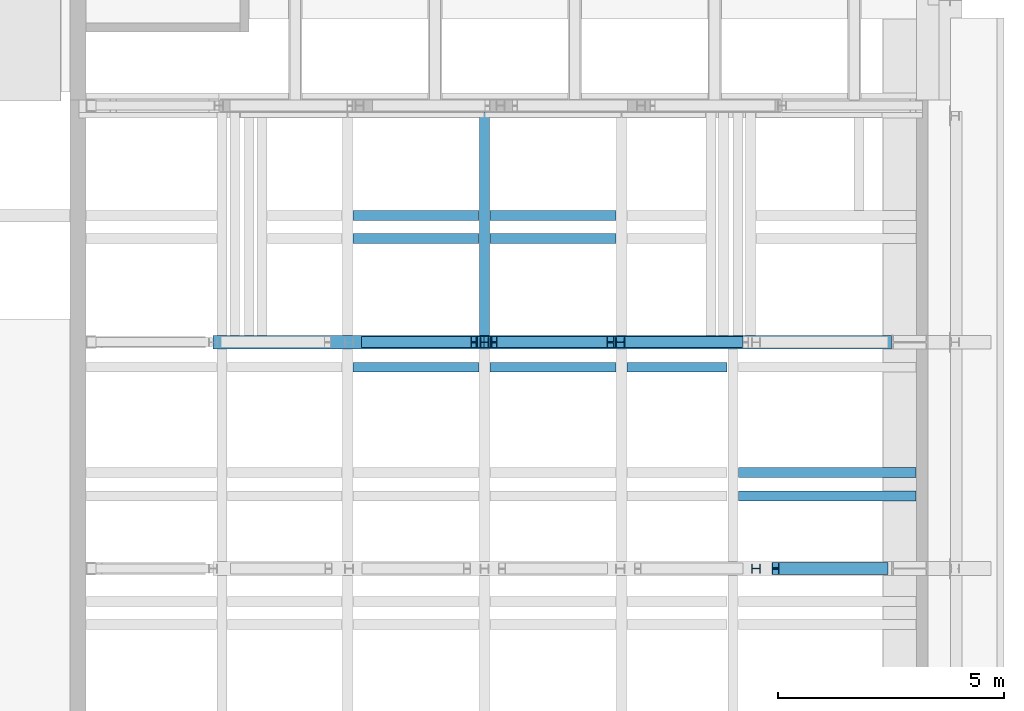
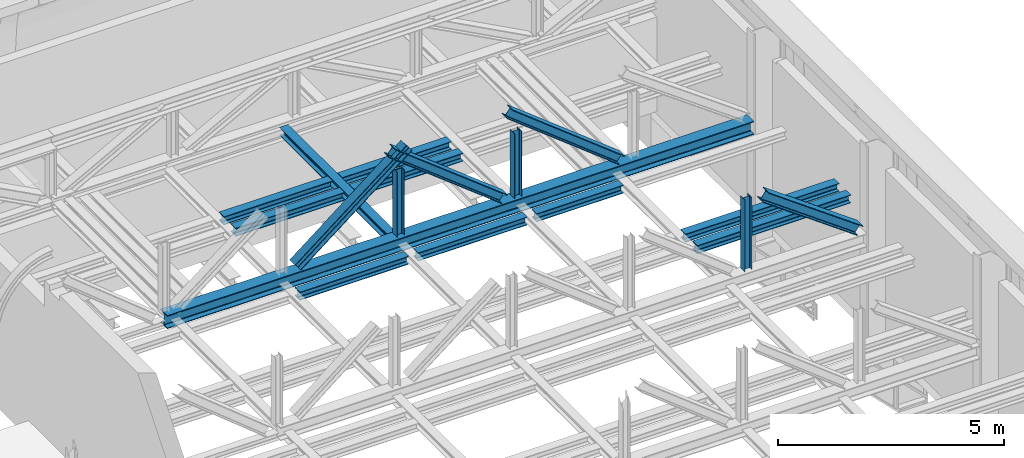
# One storey, part 21 of 29: 18 beams.
"""IFC2X3 building model written with IfcOpenShell, lengths in millimetres."""

import ifcopenshell
import ifcopenshell.guid

model = None  # the IFC model being written
_history = None  # IfcOwnerHistory: only IFC2X3 demands one
_inside = {}  # id of a spatial element -> (the spatial element, [elements in it])
_under = {}  # id of a project, library or spatial element -> (it, [spatial elements below it])
_declared = {}  # id of a project -> (the project, [libraries it declares])
_typed = {}  # id of a type object -> (the type object, [elements of that type])
_made_of = {}  # id of a material, layer set ... -> (it, [elements and type objects made of it])


def new_model(schema):
    """Start an empty IFC model of exactly this schema.

    Asked for "IFC4X3", IfcOpenShell would pick the latest addendum, in which some entities
    have other attributes; the version numbers below select the first issue.
    IFC2X3 requires an IfcOwnerHistory on every rooted entity: one is made here for all.
    """
    global model, _history
    if schema == "IFC4X3":
        model = ifcopenshell.file(schema_version=(4, 3, 0, 0))
    else:
        model = ifcopenshell.file(schema=schema)
    _inside.clear()
    _under.clear()
    _declared.clear()
    _typed.clear()
    _made_of.clear()
    _history = None
    if model.schema == "IFC2X3":
        org = make("IfcOrganization", Name="unknown")
        user = make(
            "IfcPersonAndOrganization",
            ThePerson=make("IfcPerson", FamilyName="unknown"),
            TheOrganization=org,
        )
        app = make(
            "IfcApplication",
            ApplicationDeveloper=org,
            Version="unknown",
            ApplicationFullName="unknown",
            ApplicationIdentifier="unknown",
        )
        _history = make(
            "IfcOwnerHistory",
            OwningUser=user,
            OwningApplication=app,
            ChangeAction="ADDED",
            CreationDate=0,
        )
    return model


def make(cls, **values):
    """One entity of the class cls with the attributes given. An attribute that is None is left unset."""
    return model.create_entity(
        cls, **{name: value for name, value in values.items() if value is not None}
    )


def entity(cls, *values):
    """Any entity or typed value of the class cls, its attributes in the order of the schema. None: left unset."""
    e = model.create_entity(cls)
    for i, value in enumerate(values):
        if value is not None:
            e[i] = value
    return e


def rooted(cls, **values):
    """An entity with a GlobalId (a new one), such as an element, a storey or a relation."""
    return make(cls, GlobalId=ifcopenshell.guid.new(), OwnerHistory=_history, **values)


def si_unit(unit_type, name, prefix=None):
    """IfcSIUnit, for example si_unit("LENGTHUNIT", "METRE", prefix="MILLI")."""
    return make("IfcSIUnit", UnitType=unit_type, Prefix=prefix, Name=name)


def converted_unit(unit_type, name, factor, base, dimensions=None, offset=None):
    """IfcConversionBasedUnit, such as the inch: factor (a typed value) times the base unit."""
    return make(
        "IfcConversionBasedUnit"
        if offset is None
        else "IfcConversionBasedUnitWithOffset",
        ConversionOffset=offset,
        Dimensions=None
        if dimensions is None
        else entity("IfcDimensionalExponents", *dimensions),
        UnitType=unit_type,
        Name=name,
        ConversionFactor=make(
            "IfcMeasureWithUnit", ValueComponent=factor, UnitComponent=base
        ),
    )


def derived_unit(unit_type, elements):
    """IfcDerivedUnit: a product of units, each with its exponent."""
    return make(
        "IfcDerivedUnit",
        Elements=[
            make("IfcDerivedUnitElement", Unit=unit, Exponent=power)
            for unit, power in elements
        ],
        UnitType=unit_type,
    )


def assignment(units):
    """IfcUnitAssignment: the units of a project."""
    return None if units is None else make("IfcUnitAssignment", Units=units)


def point(xyz):
    """IfcCartesianPoint."""
    return None if xyz is None else make("IfcCartesianPoint", Coordinates=xyz)


def direction(xyz):
    """IfcDirection."""
    return None if xyz is None else make("IfcDirection", DirectionRatios=xyz)


def frame(location, z_axis=None, x_axis=None):
    """IfcAxis2Placement3D, a coordinate frame: its origin and axes. An axis left out is left unset."""
    return make(
        "IfcAxis2Placement3D",
        Location=point(location),
        Axis=direction(z_axis),
        RefDirection=direction(x_axis),
    )


def frame_2d(location, x_axis=None):
    """IfcAxis2Placement2D, a coordinate frame in the plane: its origin and x axis."""
    return make(
        "IfcAxis2Placement2D", Location=point(location), RefDirection=direction(x_axis)
    )


def origin():
    """The frame at (0, 0, 0) with its axes left unset."""
    return frame((0.0, 0.0, 0.0))


def place(relative_to, where):
    """IfcLocalPlacement: puts the frame where relative to a parent placement (None: the world)."""
    return make(
        "IfcLocalPlacement", PlacementRelTo=relative_to, RelativePlacement=where
    )


def context(
    kind, dimensions, precision=None, world=None, true_north=None, identifier=None
):
    """IfcGeometricRepresentationContext, for example the 3D "Model" context."""
    return make(
        "IfcGeometricRepresentationContext",
        ContextIdentifier=identifier,
        ContextType=kind,
        CoordinateSpaceDimension=dimensions,
        Precision=precision,
        WorldCoordinateSystem=world,
        TrueNorth=true_north,
    )


def subcontext(parent, identifier, kind, view, scale=None):
    """IfcGeometricRepresentationSubContext, for example "Body" below "Model"."""
    return make(
        "IfcGeometricRepresentationSubContext",
        ContextIdentifier=identifier,
        ContextType=kind,
        ParentContext=parent,
        TargetScale=scale,
        TargetView=view,
    )


def project(units=None, contexts=None):
    """IfcProject with its units and contexts."""
    return rooted(
        "IfcProject",
        Name="project",
        RepresentationContexts=contexts,
        UnitsInContext=assignment(units),
    )


def spatial(cls, under=None, at=None, **own):
    """A site, building, storey or space (cls), placed at a placement, below another one or the project."""
    s = rooted(cls, ObjectPlacement=at, **own)
    if under is not None:
        _under.setdefault(under.id(), (under, []))[1].append(s)
    return s


def polyline(points):
    """IfcPolyline through the points."""
    return make("IfcPolyline", Points=[point(p) for p in points])


def circle_curve(where, radius):
    """IfcCircle in the frame where."""
    return make("IfcCircle", Position=where, Radius=radius)


def parameter(value):
    """IfcParameterValue: where a trimmed curve begins or ends, as a parameter of its basis curve."""
    return model.create_entity("IfcParameterValue", value)


def trimmed(basis, trim1, trim2, sense, master):
    """IfcTrimmedCurve: the piece of a basis curve between two trims."""
    return make(
        "IfcTrimmedCurve",
        BasisCurve=basis,
        Trim1=trim1,
        Trim2=trim2,
        SenseAgreement=sense,
        MasterRepresentation=master,
    )


def segment(curve, same_sense, transition):
    """IfcCompositeCurveSegment."""
    return make(
        "IfcCompositeCurveSegment",
        Transition=transition,
        SameSense=same_sense,
        ParentCurve=curve,
    )


def composite_curve(segments, self_intersect=None):
    """IfcCompositeCurve: segments joined end to end."""
    return make("IfcCompositeCurve", Segments=segments, SelfIntersect=self_intersect)


def profile(cls, at=None, kind="AREA", **sizes):
    """A parametric profile (cls). Its sizes go by their IFC names, for example OverallWidth=200.0."""
    return make(cls, ProfileType=kind, Position=at, **sizes)


def i_section(**sizes):
    """IfcIShapeProfileDef."""
    return profile("IfcIShapeProfileDef", **sizes)


def outline(outer, holes=None, kind="AREA"):
    """IfcArbitraryClosedProfileDef: a profile drawn as a closed curve; with holes, ...WithVoids."""
    if holes is None:
        return make("IfcArbitraryClosedProfileDef", ProfileType=kind, OuterCurve=outer)
    return make(
        "IfcArbitraryProfileDefWithVoids",
        ProfileType=kind,
        OuterCurve=outer,
        InnerCurves=holes,
    )


def extrude(swept, where, along, depth):
    """IfcExtrudedAreaSolid: the profile swept, set in the frame where, extruded along a direction by depth."""
    return make(
        "IfcExtrudedAreaSolid",
        SweptArea=swept,
        Position=where,
        ExtrudedDirection=direction(along),
        Depth=depth,
    )


def shape(context_of_items, identifier, shape_type, items):
    """IfcShapeRepresentation: the items that make up one representation, for example the "Body"."""
    return make(
        "IfcShapeRepresentation",
        ContextOfItems=context_of_items,
        RepresentationIdentifier=identifier,
        RepresentationType=shape_type,
        Items=items,
    )


def material(Name=None, Category=None):
    """IfcMaterial."""
    return make("IfcMaterial", Name=Name, Category=Category)


def made_of(thing, what):
    """Note that an element or type object is made of a material, layer set ...; save() writes the relation."""
    if what is not None:
        _made_of.setdefault(what.id(), (what, []))[1].append(thing)
    return thing


def type_object(cls, material=None, **own):
    """A type object (cls), such as IfcWallType, which elements share."""
    return made_of(rooted(cls, **own), material)


def element(
    cls,
    number,
    at=None,
    inside=None,
    cuts=None,
    type_object=None,
    material=None,
    context=None,
    identifier="Body",
    shape_type=None,
    held_by="IfcProductDefinitionShape",
    body=None,
    shapes=None,
    **own,
):
    """One element of the class cls, such as IfcWall. Its Tag is "e" and its number.

    at: its placement. inside: the storey or other place that contains it. cuts: it is an
    opening in that element (IfcRelVoidsElement). A single representation is given by context,
    identifier, shape_type and body (its items); several are given by shapes. held_by: the class
    of the entity that holds the representations. save() writes the other relations.
    """
    e = rooted(cls, Tag="e%d" % number, ObjectPlacement=at, **own)
    if body is not None:
        shapes = [shape(context, identifier, shape_type, body)]
    if shapes is not None:
        e.Representation = make(held_by, Representations=shapes)
    if inside is not None:
        _inside.setdefault(inside.id(), (inside, []))[1].append(e)
    if cuts is not None:
        rooted(
            "IfcRelVoidsElement", RelatingBuildingElement=cuts, RelatedOpeningElement=e
        )
    if type_object is not None:
        _typed.setdefault(type_object.id(), (type_object, []))[1].append(e)
    return made_of(e, material)


def aggregate(whole, parts):
    """IfcRelAggregates: a whole, such as a stair, and the parts it consists of."""
    return rooted("IfcRelAggregates", RelatingObject=whole, RelatedObjects=parts)


def save(model, path):
    """Write the relations noted so far, then the file.

    IfcRelAggregates (storeys below a building ...), IfcRelContainedInSpatialStructure (elements
    in a storey), IfcRelDefinesByType, IfcRelAssociatesMaterial and IfcRelDeclares: one each for
    every whole, place, type object, material and project.
    """
    for whole, parts in _under.values():
        aggregate(whole, parts)
    for where, things in _inside.values():
        rooted(
            "IfcRelContainedInSpatialStructure",
            RelatedElements=things,
            RelatingStructure=where,
        )
    for kind, things in _typed.values():
        rooted("IfcRelDefinesByType", RelatedObjects=things, RelatingType=kind)
    for what, things in _made_of.values():
        rooted("IfcRelAssociatesMaterial", RelatedObjects=things, RelatingMaterial=what)
    for by, libraries in _declared.values():
        rooted("IfcRelDeclares", RelatingContext=by, RelatedDefinitions=libraries)
    model.write(path)


model = new_model("IFC2X3")

# Units and contexts
model_context = context("Model", 3, precision=0.01, world=origin(), true_north=direction((6.12303176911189e-17, 1.0)))
body_context = subcontext(model_context, "Body", "Model", "MODEL_VIEW")
ifc_project = project(units=[si_unit("LENGTHUNIT", "METRE", prefix="MILLI"), si_unit("AREAUNIT", "SQUARE_METRE", prefix="MILLI"), si_unit("VOLUMEUNIT", "CUBIC_METRE"), converted_unit("PLANEANGLEUNIT", "DEGREE", entity("IfcRatioMeasure", 0.0174532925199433), si_unit("PLANEANGLEUNIT", "RADIAN"), dimensions=[0, 0, 0, 0, 0, 0, 0]), si_unit("MASSUNIT", "GRAM", prefix="KILO"), derived_unit("MASSDENSITYUNIT", [(si_unit("MASSUNIT", "GRAM", prefix="KILO"), 1), (si_unit("LENGTHUNIT", "METRE"), -3)]), derived_unit("MOMENTOFINERTIAUNIT", [(si_unit("LENGTHUNIT", "METRE"), 4)]), si_unit("TIMEUNIT", "SECOND"), si_unit("FREQUENCYUNIT", "HERTZ"), si_unit("THERMODYNAMICTEMPERATUREUNIT", "DEGREE_CELSIUS"), derived_unit("THERMALTRANSMITTANCEUNIT", [(si_unit("MASSUNIT", "GRAM", prefix="KILO"), 1), (si_unit("THERMODYNAMICTEMPERATUREUNIT", "KELVIN"), -1), (si_unit("TIMEUNIT", "SECOND"), -3)]), derived_unit("VOLUMETRICFLOWRATEUNIT", [(si_unit("LENGTHUNIT", "METRE"), 3), (si_unit("TIMEUNIT", "SECOND"), -1)]), si_unit("ELECTRICCURRENTUNIT", "AMPERE"), si_unit("ELECTRICVOLTAGEUNIT", "VOLT"), si_unit("POWERUNIT", "WATT"), si_unit("FORCEUNIT", "NEWTON", prefix="KILO"), si_unit("ILLUMINANCEUNIT", "LUX"), si_unit("LUMINOUSFLUXUNIT", "LUMEN"), si_unit("LUMINOUSINTENSITYUNIT", "CANDELA"), derived_unit("USERDEFINED", [(si_unit("MASSUNIT", "GRAM", prefix="KILO"), -1), (si_unit("LENGTHUNIT", "METRE"), -2), (si_unit("TIMEUNIT", "SECOND"), 3), (si_unit("LUMINOUSFLUXUNIT", "LUMEN"), 1)]), derived_unit("LINEARVELOCITYUNIT", [(si_unit("LENGTHUNIT", "METRE"), 1), (si_unit("TIMEUNIT", "SECOND"), -1)]), si_unit("PRESSUREUNIT", "PASCAL"), derived_unit("USERDEFINED", [(si_unit("LENGTHUNIT", "METRE"), -2), (si_unit("MASSUNIT", "GRAM", prefix="KILO"), 1), (si_unit("TIMEUNIT", "SECOND"), -2)]), derived_unit("LINEARFORCEUNIT", [(si_unit("MASSUNIT", "GRAM", prefix="KILO"), 1), (si_unit("LENGTHUNIT", "METRE"), 1), (si_unit("TIMEUNIT", "SECOND"), -2), (si_unit("LENGTHUNIT", "METRE"), -1)]), derived_unit("PLANARFORCEUNIT", [(si_unit("MASSUNIT", "GRAM", prefix="KILO"), 1), (si_unit("LENGTHUNIT", "METRE"), 1), (si_unit("TIMEUNIT", "SECOND"), -2), (si_unit("LENGTHUNIT", "METRE"), -2)])], contexts=[model_context])

# Site, building, storey
site_placement = place(None, origin())
site = spatial("IfcSite", under=ifc_project, at=site_placement, Name="Theater aan de Parade", CompositionType="ELEMENT")
building_placement = place(site_placement, origin())
building = spatial("IfcBuilding", under=site, at=building_placement, Name="Theater aan de Parade", CompositionType="ELEMENT")
storey_placement = place(building_placement, frame((0.0, 0.0, 20300.0)))
storey = spatial("IfcBuildingStorey", under=building, at=storey_placement, Name="05 vijfde verdieping", CompositionType="ELEMENT", Elevation=20300.0)

# Beams
ifc_material = material(Name="00_PBT_MAT_staal_S355")
beam_type_1 = type_object("IfcBeamType", Name="28_PBT_SF_staal_H-profiel:S355_HE220B", PredefinedType="NOTDEFINED")
beam_1_placement = place(storey_placement, frame((76509.4104367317, 40060.0, 0.0), z_axis=(0.0, 0.0, 1.0), x_axis=(0.0, 1.0, 0.0)))
element("IfcBeam", 1, at=beam_1_placement, inside=storey, type_object=beam_type_1, material=ifc_material, Name="28_PBT_SF_staal_H-profiel:S355_HE220B", ObjectType="28_PBT_SF_staal_H-profiel:S355_HE220B", context=body_context, shape_type="SweptSolid", body=[
    extrude(outline(composite_curve([segment(polyline([(94.0, -110.0), (110.0, -110.0)]), True, "CONTINUOUS"), segment(polyline([(110.0, -110.0), (110.0, 110.0)]), True, "CONTINUOUS"), segment(polyline([(110.0, 110.0), (94.0, 110.0)]), True, "CONTINUOUS"), segment(polyline([(94.0, 110.0), (94.0, 22.7500000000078)]), True, "CONTINUOUS"), segment(trimmed(circle_curve(frame_2d((76.0, 22.7500000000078), x_axis=(1.0, 0.0)), 17.9999999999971), [parameter(269.999999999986)], [parameter(0.0)], True, "PARAMETER"), False, "CONTINUOUS"), segment(polyline([(76.0, 4.75000000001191), (-76.0, 4.75000000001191)]), True, "CONTINUOUS"), segment(trimmed(circle_curve(frame_2d((-76.0, 22.7500000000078), x_axis=(0.0, -1.0)), 17.9999999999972), [parameter(269.999999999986)], [parameter(0.0)], True, "PARAMETER"), False, "CONTINUOUS"), segment(polyline([(-94.0, 22.7500000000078), (-94.0, 110.0)]), True, "CONTINUOUS"), segment(polyline([(-94.0, 110.0), (-110.0, 110.0)]), True, "CONTINUOUS"), segment(polyline([(-110.0, 110.0), (-110.0, -110.0)]), True, "CONTINUOUS"), segment(polyline([(-110.0, -110.0), (-94.0, -110.0)]), True, "CONTINUOUS"), segment(polyline([(-94.0, -110.0), (-94.0, -22.7499999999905)]), True, "CONTINUOUS"), segment(trimmed(circle_curve(frame_2d((-76.0, -22.7499999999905), x_axis=(-1.0, 0.0)), 17.9999999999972), [parameter(269.999999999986)], [parameter(0.0)], True, "PARAMETER"), False, "CONTINUOUS"), segment(polyline([(-76.0, -4.74999999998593), (76.0, -4.74999999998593)]), True, "CONTINUOUS"), segment(trimmed(circle_curve(frame_2d((76.0, -22.7499999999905), x_axis=(0.0, 1.0)), 17.9999999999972), [parameter(269.999999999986)], [parameter(0.0)], True, "PARAMETER"), False, "CONTINUOUS"), segment(polyline([(94.0, -22.7499999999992), (94.0, -110.0)]), True, "CONTINUOUS")], self_intersect=False)), frame((0.0, 0.0, 2360.0), z_axis=(1.0, 0.0, 0.0), x_axis=(0.0, 0.0, -1.0)), (0.0, 0.0, 1.0), 4925.00000000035),
])
beam_2_placement = place(storey_placement, frame((76509.4104367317, 42712.5000000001, 0.0), z_axis=(0.0, 0.0, 1.0), x_axis=(-1.0, 0.0, 0.0)))
element("IfcBeam", 2, at=beam_2_placement, inside=storey, type_object=beam_type_1, material=ifc_material, Name="28_PBT_SF_staal_H-profiel:S355_HE220B", ObjectType="28_PBT_SF_staal_H-profiel:S355_HE220B", context=body_context, shape_type="SweptSolid", body=[
    extrude(outline(composite_curve([segment(polyline([(94.0, -110.0), (110.0, -110.0)]), True, "CONTINUOUS"), segment(polyline([(110.0, -110.0), (110.0, 110.0)]), True, "CONTINUOUS"), segment(polyline([(110.0, 110.0), (94.0, 110.0)]), True, "CONTINUOUS"), segment(polyline([(94.0, 110.0), (94.0, 22.7500000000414)]), True, "CONTINUOUS"), segment(trimmed(circle_curve(frame_2d((76.0, 22.7500000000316), x_axis=(1.0, 0.0)), 17.9999999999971), [parameter(269.999999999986)], [parameter(0.0)], True, "PARAMETER"), False, "CONTINUOUS"), segment(polyline([(76.0, 4.7500000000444), (-76.0, 4.74999999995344)]), True, "CONTINUOUS"), segment(trimmed(circle_curve(frame_2d((-76.0, 22.7499999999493), x_axis=(0.0, -1.0)), 17.9999999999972), [parameter(269.999999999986)], [parameter(0.0)], True, "PARAMETER"), False, "CONTINUOUS"), segment(polyline([(-94.0, 22.7499999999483), (-94.0, 110.0)]), True, "CONTINUOUS"), segment(polyline([(-94.0, 110.0), (-110.0, 110.0)]), True, "CONTINUOUS"), segment(polyline([(-110.0, 110.0), (-110.0, -110.0)]), True, "CONTINUOUS"), segment(polyline([(-110.0, -110.0), (-94.0, -110.0)]), True, "CONTINUOUS"), segment(polyline([(-94.0, -110.0), (-94.0, -22.7500000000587)]), True, "CONTINUOUS"), segment(trimmed(circle_curve(frame_2d((-76.0, -22.750000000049), x_axis=(-1.0, 0.0)), 17.9999999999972), [parameter(269.999999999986)], [parameter(0.0)], True, "PARAMETER"), False, "CONTINUOUS"), segment(polyline([(-76.0, -4.75000000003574), (76.0, -4.7499999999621)]), True, "CONTINUOUS"), segment(trimmed(circle_curve(frame_2d((76.0, -22.7499999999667), x_axis=(0.0, 1.0)), 17.9999999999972), [parameter(269.999999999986)], [parameter(0.0)], True, "PARAMETER"), False, "CONTINUOUS"), segment(polyline([(94.0, -22.7499999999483), (94.0, -110.0)]), True, "CONTINUOUS")], self_intersect=False)), frame((122.69999999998, 0.0, 2360.0), z_axis=(1.0, 0.0, 0.0), x_axis=(0.0, 0.0, -1.0)), (0.0, 0.0, 1.0), 2780.65144525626),
])
beam_3_placement = place(storey_placement, frame((76509.4104367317, 42198.4998000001, 0.0), z_axis=(0.0, 0.0, 1.0), x_axis=(-1.0, 0.0, 0.0)))
element("IfcBeam", 3, at=beam_3_placement, inside=storey, type_object=beam_type_1, material=ifc_material, Name="28_PBT_SF_staal_H-profiel:S355_HE220B", ObjectType="28_PBT_SF_staal_H-profiel:S355_HE220B", context=body_context, shape_type="SweptSolid", body=[
    extrude(outline(composite_curve([segment(polyline([(94.0, -110.0), (110.0, -110.0)]), True, "CONTINUOUS"), segment(polyline([(110.0, -110.0), (110.0, 110.0)]), True, "CONTINUOUS"), segment(polyline([(110.0, 110.0), (94.0, 110.0)]), True, "CONTINUOUS"), segment(polyline([(94.0, 110.0), (94.0, 22.7500000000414)]), True, "CONTINUOUS"), segment(trimmed(circle_curve(frame_2d((76.0, 22.7500000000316), x_axis=(1.0, 0.0)), 17.9999999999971), [parameter(269.999999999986)], [parameter(0.0)], True, "PARAMETER"), False, "CONTINUOUS"), segment(polyline([(76.0, 4.7500000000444), (-76.0, 4.74999999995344)]), True, "CONTINUOUS"), segment(trimmed(circle_curve(frame_2d((-76.0, 22.7499999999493), x_axis=(0.0, -1.0)), 17.9999999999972), [parameter(269.999999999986)], [parameter(0.0)], True, "PARAMETER"), False, "CONTINUOUS"), segment(polyline([(-94.0, 22.7499999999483), (-94.0, 110.0)]), True, "CONTINUOUS"), segment(polyline([(-94.0, 110.0), (-110.0, 110.0)]), True, "CONTINUOUS"), segment(polyline([(-110.0, 110.0), (-110.0, -110.0)]), True, "CONTINUOUS"), segment(polyline([(-110.0, -110.0), (-94.0, -110.0)]), True, "CONTINUOUS"), segment(polyline([(-94.0, -110.0), (-94.0, -22.7500000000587)]), True, "CONTINUOUS"), segment(trimmed(circle_curve(frame_2d((-76.0, -22.750000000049), x_axis=(-1.0, 0.0)), 17.9999999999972), [parameter(269.999999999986)], [parameter(0.0)], True, "PARAMETER"), False, "CONTINUOUS"), segment(polyline([(-76.0, -4.75000000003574), (76.0, -4.7499999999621)]), True, "CONTINUOUS"), segment(trimmed(circle_curve(frame_2d((76.0, -22.7499999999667), x_axis=(0.0, 1.0)), 17.9999999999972), [parameter(269.999999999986)], [parameter(0.0)], True, "PARAMETER"), False, "CONTINUOUS"), segment(polyline([(94.0, -22.7499999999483), (94.0, -110.0)]), True, "CONTINUOUS")], self_intersect=False)), frame((122.699999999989, 0.0, 2360.0), z_axis=(1.0, 0.0, 0.0), x_axis=(0.0, 0.0, -1.0)), (0.0, 0.0, 1.0), 2780.65144525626),
])
beam_4_placement = place(storey_placement, frame((79535.461881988, 42712.5000000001, 0.0), z_axis=(0.0, 0.0, 1.0), x_axis=(-1.0, 0.0, 0.0)))
element("IfcBeam", 4, at=beam_4_placement, inside=storey, type_object=beam_type_1, material=ifc_material, Name="28_PBT_SF_staal_H-profiel:S355_HE220B", ObjectType="28_PBT_SF_staal_H-profiel:S355_HE220B", context=body_context, shape_type="SweptSolid", body=[
    extrude(outline(composite_curve([segment(polyline([(94.0, -110.0), (110.0, -110.0)]), True, "CONTINUOUS"), segment(polyline([(110.0, -110.0), (110.0, 110.0)]), True, "CONTINUOUS"), segment(polyline([(110.0, 110.0), (94.0, 110.0)]), True, "CONTINUOUS"), segment(polyline([(94.0, 110.0), (94.0, 22.7500000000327)]), True, "CONTINUOUS"), segment(trimmed(circle_curve(frame_2d((76.0, 22.750000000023), x_axis=(1.0, 0.0)), 17.9999999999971), [parameter(269.999999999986)], [parameter(0.0)], True, "PARAMETER"), False, "CONTINUOUS"), segment(polyline([(76.0, 4.75000000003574), (-76.0, 4.74999999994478)]), True, "CONTINUOUS"), segment(trimmed(circle_curve(frame_2d((-76.0, 22.7499999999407), x_axis=(0.0, -1.0)), 17.9999999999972), [parameter(269.999999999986)], [parameter(0.0)], True, "PARAMETER"), False, "CONTINUOUS"), segment(polyline([(-94.0, 22.7499999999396), (-94.0, 110.0)]), True, "CONTINUOUS"), segment(polyline([(-94.0, 110.0), (-110.0, 110.0)]), True, "CONTINUOUS"), segment(polyline([(-110.0, 110.0), (-110.0, -110.0)]), True, "CONTINUOUS"), segment(polyline([(-110.0, -110.0), (-94.0, -110.0)]), True, "CONTINUOUS"), segment(polyline([(-94.0, -110.0), (-94.0, -22.7500000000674)]), True, "CONTINUOUS"), segment(trimmed(circle_curve(frame_2d((-76.0, -22.7500000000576), x_axis=(-1.0, 0.0)), 17.9999999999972), [parameter(269.999999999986)], [parameter(0.0)], True, "PARAMETER"), False, "CONTINUOUS"), segment(polyline([(-76.0, -4.7500000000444), (76.0, -4.74999999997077)]), True, "CONTINUOUS"), segment(trimmed(circle_curve(frame_2d((76.0, -22.7499999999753), x_axis=(0.0, 1.0)), 17.9999999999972), [parameter(269.999999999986)], [parameter(0.0)], True, "PARAMETER"), False, "CONTINUOUS"), segment(polyline([(94.0, -22.7499999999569), (94.0, -110.0)]), True, "CONTINUOUS")], self_intersect=False)), frame((122.700000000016, 0.0, 2360.0), z_axis=(1.0, 0.0, 0.0), x_axis=(0.0, 0.0, -1.0)), (0.0, 0.0, 1.0), 2780.65144525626),
])
beam_5_placement = place(storey_placement, frame((79535.461881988, 42198.4998000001, 0.0), z_axis=(0.0, 0.0, 1.0), x_axis=(-1.0, 0.0, 0.0)))
element("IfcBeam", 5, at=beam_5_placement, inside=storey, type_object=beam_type_1, material=ifc_material, Name="28_PBT_SF_staal_H-profiel:S355_HE220B", ObjectType="28_PBT_SF_staal_H-profiel:S355_HE220B", context=body_context, shape_type="SweptSolid", body=[
    extrude(outline(composite_curve([segment(polyline([(94.0, -110.0), (110.0, -110.0)]), True, "CONTINUOUS"), segment(polyline([(110.0, -110.0), (110.0, 110.0)]), True, "CONTINUOUS"), segment(polyline([(110.0, 110.0), (94.0, 110.0)]), True, "CONTINUOUS"), segment(polyline([(94.0, 110.0), (94.0, 22.7500000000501)]), True, "CONTINUOUS"), segment(trimmed(circle_curve(frame_2d((76.0, 22.7500000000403), x_axis=(1.0, 0.0)), 17.9999999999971), [parameter(269.999999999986)], [parameter(0.0)], True, "PARAMETER"), False, "CONTINUOUS"), segment(polyline([(76.0, 4.75000000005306), (-76.0, 4.7499999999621)]), True, "CONTINUOUS"), segment(trimmed(circle_curve(frame_2d((-76.0, 22.749999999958), x_axis=(0.0, -1.0)), 17.9999999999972), [parameter(269.999999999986)], [parameter(0.0)], True, "PARAMETER"), False, "CONTINUOUS"), segment(polyline([(-94.0, 22.7499999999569), (-94.0, 110.0)]), True, "CONTINUOUS"), segment(polyline([(-94.0, 110.0), (-110.0, 110.0)]), True, "CONTINUOUS"), segment(polyline([(-110.0, 110.0), (-110.0, -110.0)]), True, "CONTINUOUS"), segment(polyline([(-110.0, -110.0), (-94.0, -110.0)]), True, "CONTINUOUS"), segment(polyline([(-94.0, -110.0), (-94.0, -22.7500000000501)]), True, "CONTINUOUS"), segment(trimmed(circle_curve(frame_2d((-76.0, -22.7500000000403), x_axis=(-1.0, 0.0)), 17.9999999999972), [parameter(269.999999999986)], [parameter(0.0)], True, "PARAMETER"), False, "CONTINUOUS"), segment(polyline([(-76.0, -4.75000000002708), (76.0, -4.74999999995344)]), True, "CONTINUOUS"), segment(trimmed(circle_curve(frame_2d((76.0, -22.749999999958), x_axis=(0.0, 1.0)), 17.9999999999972), [parameter(269.999999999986)], [parameter(0.0)], True, "PARAMETER"), False, "CONTINUOUS"), segment(polyline([(94.0, -22.7499999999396), (94.0, -110.0)]), True, "CONTINUOUS")], self_intersect=False)), frame((122.700000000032, 0.0, 2360.0), z_axis=(1.0, 0.0, 0.0), x_axis=(0.0, 0.0, -1.0)), (0.0, 0.0, 1.0), 2780.65144525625),
])
beam_6_placement = place(storey_placement, frame((76509.4104367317, 39355.4998, 0.0), z_axis=(0.0, 0.0, 1.0), x_axis=(-1.0, 0.0, 0.0)))
element("IfcBeam", 6, at=beam_6_placement, inside=storey, type_object=beam_type_1, material=ifc_material, Name="28_PBT_SF_staal_H-profiel:S355_HE220B", ObjectType="28_PBT_SF_staal_H-profiel:S355_HE220B", context=body_context, shape_type="SweptSolid", body=[
    extrude(outline(composite_curve([segment(polyline([(94.0, -110.0), (110.0, -110.0)]), True, "CONTINUOUS"), segment(polyline([(110.0, -110.0), (110.0, 110.0)]), True, "CONTINUOUS"), segment(polyline([(110.0, 110.0), (94.0, 110.0)]), True, "CONTINUOUS"), segment(polyline([(94.0, 110.0), (94.0, 22.7500000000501)]), True, "CONTINUOUS"), segment(trimmed(circle_curve(frame_2d((76.0, 22.7500000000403), x_axis=(1.0, 0.0)), 17.9999999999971), [parameter(269.999999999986)], [parameter(0.0)], True, "PARAMETER"), False, "CONTINUOUS"), segment(polyline([(76.0, 4.75000000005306), (-76.0, 4.7499999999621)]), True, "CONTINUOUS"), segment(trimmed(circle_curve(frame_2d((-76.0, 22.749999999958), x_axis=(0.0, -1.0)), 17.9999999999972), [parameter(269.999999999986)], [parameter(0.0)], True, "PARAMETER"), False, "CONTINUOUS"), segment(polyline([(-94.0, 22.7499999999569), (-94.0, 110.0)]), True, "CONTINUOUS"), segment(polyline([(-94.0, 110.0), (-110.0, 110.0)]), True, "CONTINUOUS"), segment(polyline([(-110.0, 110.0), (-110.0, -110.0)]), True, "CONTINUOUS"), segment(polyline([(-110.0, -110.0), (-94.0, -110.0)]), True, "CONTINUOUS"), segment(polyline([(-94.0, -110.0), (-94.0, -22.7500000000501)]), True, "CONTINUOUS"), segment(trimmed(circle_curve(frame_2d((-76.0, -22.7500000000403), x_axis=(-1.0, 0.0)), 17.9999999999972), [parameter(269.999999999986)], [parameter(0.0)], True, "PARAMETER"), False, "CONTINUOUS"), segment(polyline([(-76.0, -4.75000000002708), (76.0, -4.74999999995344)]), True, "CONTINUOUS"), segment(trimmed(circle_curve(frame_2d((76.0, -22.749999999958), x_axis=(0.0, 1.0)), 17.9999999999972), [parameter(269.999999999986)], [parameter(0.0)], True, "PARAMETER"), False, "CONTINUOUS"), segment(polyline([(94.0, -22.7499999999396), (94.0, -110.0)]), True, "CONTINUOUS")], self_intersect=False)), frame((122.699999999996, 0.0, 2360.0), z_axis=(1.0, 0.0, 0.0), x_axis=(0.0, 0.0, -1.0)), (0.0, 0.0, 1.0), 2780.65144525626),
])
beam_7_placement = place(storey_placement, frame((79535.461881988, 39355.4998, 0.0), z_axis=(0.0, 0.0, 1.0), x_axis=(-1.0, 0.0, 0.0)))
element("IfcBeam", 7, at=beam_7_placement, inside=storey, type_object=beam_type_1, material=ifc_material, Name="28_PBT_SF_staal_H-profiel:S355_HE220B", ObjectType="28_PBT_SF_staal_H-profiel:S355_HE220B", context=body_context, shape_type="SweptSolid", body=[
    extrude(outline(composite_curve([segment(polyline([(94.0, -110.0), (110.0, -110.0)]), True, "CONTINUOUS"), segment(polyline([(110.0, -110.0), (110.0, 110.0)]), True, "CONTINUOUS"), segment(polyline([(110.0, 110.0), (94.0, 110.0)]), True, "CONTINUOUS"), segment(polyline([(94.0, 110.0), (94.0, 22.7500000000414)]), True, "CONTINUOUS"), segment(trimmed(circle_curve(frame_2d((76.0, 22.7500000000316), x_axis=(1.0, 0.0)), 17.9999999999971), [parameter(269.999999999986)], [parameter(0.0)], True, "PARAMETER"), False, "CONTINUOUS"), segment(polyline([(76.0, 4.7500000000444), (-76.0, 4.74999999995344)]), True, "CONTINUOUS"), segment(trimmed(circle_curve(frame_2d((-76.0, 22.7499999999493), x_axis=(0.0, -1.0)), 17.9999999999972), [parameter(269.999999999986)], [parameter(0.0)], True, "PARAMETER"), False, "CONTINUOUS"), segment(polyline([(-94.0, 22.7499999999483), (-94.0, 110.0)]), True, "CONTINUOUS"), segment(polyline([(-94.0, 110.0), (-110.0, 110.0)]), True, "CONTINUOUS"), segment(polyline([(-110.0, 110.0), (-110.0, -110.0)]), True, "CONTINUOUS"), segment(polyline([(-110.0, -110.0), (-94.0, -110.0)]), True, "CONTINUOUS"), segment(polyline([(-94.0, -110.0), (-94.0, -22.7500000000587)]), True, "CONTINUOUS"), segment(trimmed(circle_curve(frame_2d((-76.0, -22.750000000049), x_axis=(-1.0, 0.0)), 17.9999999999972), [parameter(269.999999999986)], [parameter(0.0)], True, "PARAMETER"), False, "CONTINUOUS"), segment(polyline([(-76.0, -4.75000000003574), (76.0, -4.7499999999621)]), True, "CONTINUOUS"), segment(trimmed(circle_curve(frame_2d((76.0, -22.7499999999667), x_axis=(0.0, 1.0)), 17.9999999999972), [parameter(269.999999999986)], [parameter(0.0)], True, "PARAMETER"), False, "CONTINUOUS"), segment(polyline([(94.0, -22.7499999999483), (94.0, -110.0)]), True, "CONTINUOUS")], self_intersect=False)), frame((122.700000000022, 0.0, 2360.0), z_axis=(1.0, 0.0, 0.0), x_axis=(0.0, 0.0, -1.0)), (0.0, 0.0, 1.0), 2780.65144525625),
])
beam_8_placement = place(storey_placement, frame((81995.0, 39355.4998, 0.0), z_axis=(0.0, 0.0, 1.0), x_axis=(-1.0, 0.0, 0.0)))
element("IfcBeam", 8, at=beam_8_placement, inside=storey, type_object=beam_type_1, material=ifc_material, Name="28_PBT_SF_staal_H-profiel:S355_HE220B", ObjectType="28_PBT_SF_staal_H-profiel:S355_HE220B", context=body_context, shape_type="SweptSolid", body=[
    extrude(outline(composite_curve([segment(polyline([(94.0, -110.0), (110.0, -110.0)]), True, "CONTINUOUS"), segment(polyline([(110.0, -110.0), (110.0, 110.0)]), True, "CONTINUOUS"), segment(polyline([(110.0, 110.0), (94.0, 110.0)]), True, "CONTINUOUS"), segment(polyline([(94.0, 110.0), (94.0, 22.7500000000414)]), True, "CONTINUOUS"), segment(trimmed(circle_curve(frame_2d((76.0, 22.7500000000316), x_axis=(1.0, 0.0)), 17.9999999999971), [parameter(269.999999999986)], [parameter(0.0)], True, "PARAMETER"), False, "CONTINUOUS"), segment(polyline([(76.0, 4.7500000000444), (-76.0, 4.74999999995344)]), True, "CONTINUOUS"), segment(trimmed(circle_curve(frame_2d((-76.0, 22.7499999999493), x_axis=(0.0, -1.0)), 17.9999999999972), [parameter(269.999999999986)], [parameter(0.0)], True, "PARAMETER"), False, "CONTINUOUS"), segment(polyline([(-94.0, 22.7499999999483), (-94.0, 110.0)]), True, "CONTINUOUS"), segment(polyline([(-94.0, 110.0), (-110.0, 110.0)]), True, "CONTINUOUS"), segment(polyline([(-110.0, 110.0), (-110.0, -110.0)]), True, "CONTINUOUS"), segment(polyline([(-110.0, -110.0), (-94.0, -110.0)]), True, "CONTINUOUS"), segment(polyline([(-94.0, -110.0), (-94.0, -22.7500000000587)]), True, "CONTINUOUS"), segment(trimmed(circle_curve(frame_2d((-76.0, -22.750000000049), x_axis=(-1.0, 0.0)), 17.9999999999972), [parameter(269.999999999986)], [parameter(0.0)], True, "PARAMETER"), False, "CONTINUOUS"), segment(polyline([(-76.0, -4.75000000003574), (76.0, -4.7499999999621)]), True, "CONTINUOUS"), segment(trimmed(circle_curve(frame_2d((76.0, -22.7499999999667), x_axis=(0.0, 1.0)), 17.9999999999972), [parameter(269.999999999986)], [parameter(0.0)], True, "PARAMETER"), False, "CONTINUOUS"), segment(polyline([(94.0, -22.7499999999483), (94.0, -110.0)]), True, "CONTINUOUS")], self_intersect=False)), frame((122.699999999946, 0.0, 2360.0), z_axis=(1.0, 0.0, 0.0), x_axis=(0.0, 0.0, -1.0)), (0.0, 0.0, 1.0), 2214.13811801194),
])
beam_9_placement = place(storey_placement, frame((86180.0, 37026.5, 0.0), z_axis=(0.0, 0.0, 1.0), x_axis=(-1.0, 0.0, 0.0)))
element("IfcBeam", 9, at=beam_9_placement, inside=storey, type_object=beam_type_1, material=ifc_material, Name="28_PBT_SF_staal_H-profiel:S355_HE220B", ObjectType="28_PBT_SF_staal_H-profiel:S355_HE220B", context=body_context, shape_type="SweptSolid", body=[
    extrude(outline(composite_curve([segment(polyline([(94.0, -110.0), (110.0, -110.0)]), True, "CONTINUOUS"), segment(polyline([(110.0, -110.0), (110.0, 110.0)]), True, "CONTINUOUS"), segment(polyline([(110.0, 110.0), (94.0, 110.0)]), True, "CONTINUOUS"), segment(polyline([(94.0, 110.0), (94.0, 22.7500000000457)]), True, "CONTINUOUS"), segment(trimmed(circle_curve(frame_2d((76.0, 22.750000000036), x_axis=(1.0, 0.0)), 18.0000000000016), [parameter(270.0)], [parameter(0.0)], True, "PARAMETER"), False, "CONTINUOUS"), segment(polyline([(76.0, 4.7500000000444), (-76.0, 4.74999999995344)]), True, "CONTINUOUS"), segment(trimmed(circle_curve(frame_2d((-76.0, 22.7499999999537), x_axis=(0.0, -1.0)), 18.0000000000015), [parameter(270.0)], [parameter(0.0)], True, "PARAMETER"), False, "CONTINUOUS"), segment(polyline([(-94.0, 22.7499999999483), (-94.0, 110.0)]), True, "CONTINUOUS"), segment(polyline([(-94.0, 110.0), (-110.0, 110.0)]), True, "CONTINUOUS"), segment(polyline([(-110.0, 110.0), (-110.0, -110.0)]), True, "CONTINUOUS"), segment(polyline([(-110.0, -110.0), (-94.0, -110.0)]), True, "CONTINUOUS"), segment(polyline([(-94.0, -110.0), (-94.0, -22.7500000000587)]), True, "CONTINUOUS"), segment(trimmed(circle_curve(frame_2d((-76.0, -22.750000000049), x_axis=(-1.0, 0.0)), 17.9999999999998), [parameter(270.0)], [parameter(0.0)], True, "PARAMETER"), False, "CONTINUOUS"), segment(polyline([(-76.0, -4.75000000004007), (76.0, -4.74999999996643)]), True, "CONTINUOUS"), segment(trimmed(circle_curve(frame_2d((76.0, -22.7499999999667), x_axis=(0.0, 1.0)), 18.0000000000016), [parameter(270.0)], [parameter(0.0)], True, "PARAMETER"), False, "CONTINUOUS"), segment(polyline([(94.0, -22.7499999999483), (94.0, -110.0)]), True, "CONTINUOUS")], self_intersect=False)), frame((137.699999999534, 0.0, 2360.0), z_axis=(1.0, 0.0, 0.0), x_axis=(0.0, 0.0, -1.0)), (0.0, 0.0, 1.0), 3924.60000000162),
])
beam_10_placement = place(storey_placement, frame((86180.0, 36512.4998, 0.0), z_axis=(0.0, 0.0, 1.0), x_axis=(-1.0, 0.0, 0.0)))
element("IfcBeam", 10, at=beam_10_placement, inside=storey, type_object=beam_type_1, material=ifc_material, Name="28_PBT_SF_staal_H-profiel:S355_HE220B", ObjectType="28_PBT_SF_staal_H-profiel:S355_HE220B", context=body_context, shape_type="SweptSolid", body=[
    extrude(outline(composite_curve([segment(polyline([(94.0, -110.0), (110.0, -110.0)]), True, "CONTINUOUS"), segment(polyline([(110.0, -110.0), (110.0, 110.0)]), True, "CONTINUOUS"), segment(polyline([(110.0, 110.0), (94.0, 110.0)]), True, "CONTINUOUS"), segment(polyline([(94.0, 110.0), (94.0, 22.7500000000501)]), True, "CONTINUOUS"), segment(trimmed(circle_curve(frame_2d((76.0, 22.7500000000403), x_axis=(1.0, 0.0)), 18.0000000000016), [parameter(270.0)], [parameter(0.0)], True, "PARAMETER"), False, "CONTINUOUS"), segment(polyline([(76.0, 4.75000000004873), (-76.0, 4.74999999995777)]), True, "CONTINUOUS"), segment(trimmed(circle_curve(frame_2d((-76.0, 22.749999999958), x_axis=(0.0, -1.0)), 18.0000000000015), [parameter(270.0)], [parameter(0.0)], True, "PARAMETER"), False, "CONTINUOUS"), segment(polyline([(-94.0, 22.7499999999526), (-94.0, 110.0)]), True, "CONTINUOUS"), segment(polyline([(-94.0, 110.0), (-110.0, 110.0)]), True, "CONTINUOUS"), segment(polyline([(-110.0, 110.0), (-110.0, -110.0)]), True, "CONTINUOUS"), segment(polyline([(-110.0, -110.0), (-94.0, -110.0)]), True, "CONTINUOUS"), segment(polyline([(-94.0, -110.0), (-94.0, -22.7500000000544)]), True, "CONTINUOUS"), segment(trimmed(circle_curve(frame_2d((-76.0, -22.7500000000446), x_axis=(-1.0, 0.0)), 17.9999999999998), [parameter(270.0)], [parameter(0.0)], True, "PARAMETER"), False, "CONTINUOUS"), segment(polyline([(-76.0, -4.75000000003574), (76.0, -4.7499999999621)]), True, "CONTINUOUS"), segment(trimmed(circle_curve(frame_2d((76.0, -22.7499999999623), x_axis=(0.0, 1.0)), 18.0000000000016), [parameter(270.0)], [parameter(0.0)], True, "PARAMETER"), False, "CONTINUOUS"), segment(polyline([(94.0, -22.7499999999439), (94.0, -110.0)]), True, "CONTINUOUS")], self_intersect=False)), frame((137.699999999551, 0.0, 2360.0), z_axis=(1.0, 0.0, 0.0), x_axis=(0.0, 0.0, -1.0)), (0.0, 0.0, 1.0), 3924.60000000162),
])
beam_type_2 = type_object("IfcBeamType", Name="28_PBT_SF_staal_H-profiel:S355_HE200A", PredefinedType="NOTDEFINED")
beam_11_placement = place(storey_placement, frame((82507.137310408, 34910.0, 2430.0), z_axis=(1.0, 0.0, 0.0), x_axis=(0.0, 0.0, 1.0)))
element("IfcBeam", 11, at=beam_11_placement, inside=storey, type_object=beam_type_2, material=ifc_material, Name="28_PBT_SF_staal_H-profiel:S355_HE200A", ObjectType="28_PBT_SF_staal_H-profiel:S355_HE200A", context=body_context, shape_type="SweptSolid", body=[
    extrude(i_section(OverallWidth=199.999999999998, OverallDepth=189.999999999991, WebThickness=6.50000000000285, FlangeThickness=9.99999999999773, FilletRadius=17.9999999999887, at=frame_2d((0.0, 2.16715534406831e-12), x_axis=(0.0, 1.0))), frame((192.7, 0.0, 0.0), z_axis=(1.0, 0.0, 0.0), x_axis=(0.0, 0.0, -1.0)), (0.0, 0.0, 1.0), 1942.6),
])
beam_12_placement = place(storey_placement, frame((76512.2823862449, 39910.0, 2429.0), z_axis=(1.0, 0.0, 0.0), x_axis=(0.0, 0.0, 1.0)))
element("IfcBeam", 12, at=beam_12_placement, inside=storey, type_object=beam_type_2, material=ifc_material, Name="28_PBT_SF_staal_H-profiel:S355_HE200A", ObjectType="28_PBT_SF_staal_H-profiel:S355_HE200A", context=body_context, shape_type="SweptSolid", body=[
    extrude(i_section(OverallWidth=199.999999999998, OverallDepth=190.0, WebThickness=6.49999999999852, FlangeThickness=9.99999999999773, FilletRadius=17.9999999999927, at=frame_2d((1.29958266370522e-11, -4.33431068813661e-12), x_axis=(0.0, 1.0))), frame((192.700000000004, 0.0, 0.0), z_axis=(1.0, 0.0, 0.0), x_axis=(0.0, 0.0, -1.0)), (0.0, 0.0, 1.0), 1757.6),
])
beam_13_placement = place(storey_placement, frame((79509.7098483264, 39910.0, 2429.0), z_axis=(1.0, 0.0, 0.0), x_axis=(0.0, 0.0, 1.0)))
element("IfcBeam", 13, at=beam_13_placement, inside=storey, type_object=beam_type_2, material=ifc_material, Name="28_PBT_SF_staal_H-profiel:S355_HE200A", ObjectType="28_PBT_SF_staal_H-profiel:S355_HE200A", context=body_context, shape_type="SweptSolid", body=[
    extrude(i_section(OverallWidth=199.999999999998, OverallDepth=189.999999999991, WebThickness=6.49999999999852, FlangeThickness=9.99999999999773, FilletRadius=17.9999999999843, at=frame_2d((1.73301373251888e-11, -4.33431068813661e-12), x_axis=(0.0, 1.0))), frame((192.700000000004, 0.0, 0.0), z_axis=(1.0, 0.0, 0.0), x_axis=(0.0, 0.0, -1.0)), (0.0, 0.0, 1.0), 1757.6),
])
beam_type_3 = type_object("IfcBeamType", Name="28_PBT_SF_staal_H-profiel:S355_HE260B", PredefinedType="NOTDEFINED")
beam_14_placement = place(storey_placement, frame((82266.8641168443, 34910.0, 4950.0), z_axis=(0.58565932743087, 0.0, 0.810557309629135), x_axis=(0.810557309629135, 0.0, -0.58565932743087)))
element("IfcBeam", 14, at=beam_14_placement, inside=storey, type_object=beam_type_3, material=ifc_material, Name="28_PBT_SF_staal_H-profiel:S355_HE260B", ObjectType="28_PBT_SF_staal_H-profiel:S355_HE260B", context=body_context, shape_type="SweptSolid", body=[
    extrude(i_section(OverallWidth=260.000000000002, OverallDepth=259.999999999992, WebThickness=10.0000000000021, FlangeThickness=17.5000000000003, FilletRadius=24.0000000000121, at=frame_2d((-3.51008111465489e-12, -2.1600499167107e-12), x_axis=(0.0, 1.0))), frame((827.80261664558, 0.0, 0.0), z_axis=(1.0, 0.0, 0.0), x_axis=(0.0, 0.0, -1.0)), (0.0, 0.0, 1.0), 2975.07317133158),
])
beam_type_4 = type_object("IfcBeamType", Name="28_PBT_SF_staal_H-profiel:S355_HE240B", PredefinedType="NOTDEFINED")
beam_15_placement = place(storey_placement, frame((79293.6535107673, 39910.0, 4949.0), z_axis=(0.617082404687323, 0.0, 0.786898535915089), x_axis=(0.786898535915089, 0.0, -0.617082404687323)))
element("IfcBeam", 15, at=beam_15_placement, inside=storey, type_object=beam_type_4, material=ifc_material, Name="28_PBT_SF_staal_H-profiel:S355_HE240B", ObjectType="28_PBT_SF_staal_H-profiel:S355_HE240B", context=body_context, shape_type="SweptSolid", body=[
    extrude(i_section(OverallWidth=239.999999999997, OverallDepth=239.999999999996, WebThickness=9.99999999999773, FlangeThickness=17.0000000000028, FilletRadius=21.0000000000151, at=frame_2d((0.0, 0.0), x_axis=(0.0, 1.0))), frame((0.0, 0.0, 0.0), z_axis=(1.0, 0.0, 0.0), x_axis=(0.0, 0.0, -1.0)), (0.0, 0.0, 1.0), 3626.3150790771),
])
beam_16_placement = place(storey_placement, frame((76283.0808212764, 39910.0, 4949.0), z_axis=(0.615522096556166, 0.0, 0.78811962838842), x_axis=(0.78811962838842, 0.0, -0.615522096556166)))
element("IfcBeam", 16, at=beam_16_placement, inside=storey, type_object=beam_type_4, material=ifc_material, Name="28_PBT_SF_staal_H-profiel:S355_HE240B", ObjectType="28_PBT_SF_staal_H-profiel:S355_HE240B", context=body_context, shape_type="SweptSolid", body=[
    extrude(i_section(OverallWidth=239.999999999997, OverallDepth=239.999999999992, WebThickness=9.99999999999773, FlangeThickness=16.9999999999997, FilletRadius=21.0000000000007, at=frame_2d((-9.49285094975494e-12, 8.66151594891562e-12), x_axis=(0.0, 1.0))), frame((0.0, 0.0, 0.0), z_axis=(1.0, 0.0, 0.0), x_axis=(0.0, 0.0, -1.0)), (0.0, 0.0, 1.0), 3635.30168370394),
])
beam_17_placement = place(storey_placement, frame((73514.8549241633, 39910.0, 2429.0), z_axis=(-0.618639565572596, 0.0, 0.785674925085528), x_axis=(0.785674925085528, 0.0, 0.618639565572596)))
element("IfcBeam", 17, at=beam_17_placement, inside=storey, type_object=beam_type_4, material=ifc_material, Name="28_PBT_SF_staal_H-profiel:S355_HE240B", ObjectType="28_PBT_SF_staal_H-profiel:S355_HE240B", context=body_context, shape_type="SweptSolid", body=[
    extrude(i_section(OverallWidth=239.999999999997, OverallDepth=239.999999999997, WebThickness=9.99999999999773, FlangeThickness=17.0000000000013, FilletRadius=21.0000000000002, at=frame_2d((1.04662944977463e-11, 0.0), x_axis=(0.0, 1.0))), frame((456.061540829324, 0.0, 0.0), z_axis=(1.0, 0.0, 0.0), x_axis=(0.0, 0.0, -1.0)), (0.0, 0.0, 1.0), 3617.3927615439),
])
beam_type_5 = type_object("IfcBeamType", Name="28_PBT_SF_staal_H-profiel:S355_HE360B", PredefinedType="NOTDEFINED")
beam_18_placement = place(storey_placement, frame((70517.4274620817, 39910.0, 2429.0)))
element("IfcBeam", 18, at=beam_18_placement, inside=storey, type_object=beam_type_5, material=ifc_material, Name="28_PBT_SF_staal_H-profiel:S355_HE360B", ObjectType="28_PBT_SF_staal_H-profiel:S355_HE360B", context=body_context, shape_type="SweptSolid", body=[
    extrude(i_section(OverallWidth=300.000000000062, OverallDepth=360.0, WebThickness=12.4999999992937, FlangeThickness=22.4999999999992, FilletRadius=26.9999999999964, at=frame_2d((2.17426077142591e-12, 0.0), x_axis=(0.0, 1.0))), frame((0.0, 0.0, 0.0), z_axis=(1.0, 0.0, 0.0), x_axis=(0.0, 0.0, -1.0)), (0.0, 0.0, 1.0), 14987.1373104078),
])

save(model, "model.ifc")
